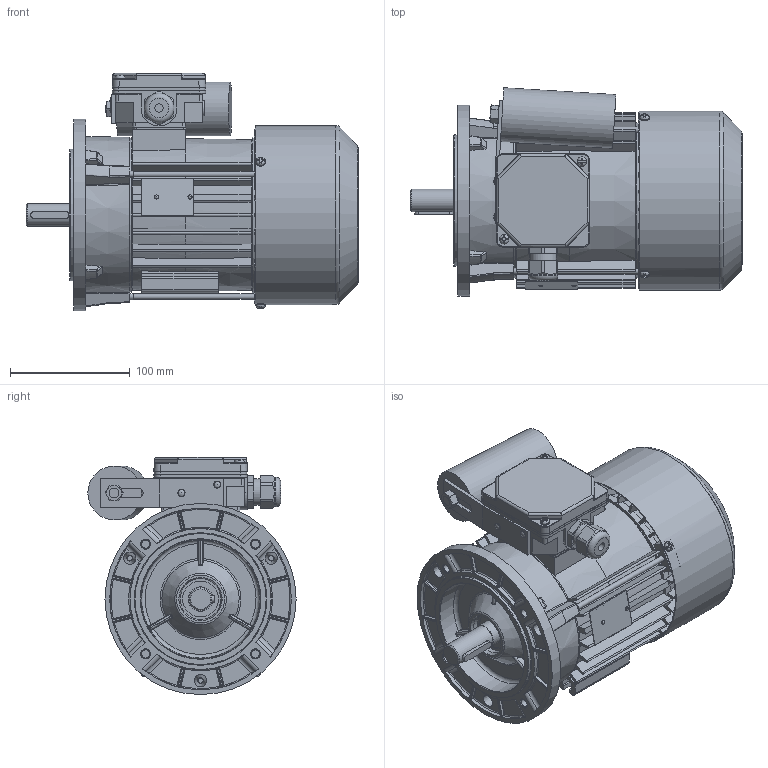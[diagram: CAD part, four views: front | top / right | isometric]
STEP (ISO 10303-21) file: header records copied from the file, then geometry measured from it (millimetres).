
FILE_DESCRIPTION(/* description */ ('Unknown'),/* implementation_level */ '2;1');
FILE_NAME(/* name */ '3SSIEK80-4A1',/* time_stamp */ '2024-06-18T07:05:22+02:00',/* author */ ('Unknown'),/* organization */ ('Unknown'),/* preprocessor_version */ 'ST-DEVELOPER v16.7',/* originating_system */ 'Solid Edge',/* authorisation */ 'Unknown');
FILE_SCHEMA (('AUTOMOTIVE_DESIGN {1 0 10303 214 3 1 1}'));
Products named in the file (1): Czêœæ5
Bounding box: 277.79 x 174.3 x 198.5 mm (x, y, z)
Volume: 1017692.9 mm3; surface area: 487558.5 mm2
Topology: 3 solids, 3 shells, 2746 faces, 7530 edges, 4832 vertices
Faces by surface type: plane 1176, cylinder 808, bspline 358, torus 202, cone 172, sphere 30
Full cylindrical faces by diameter (mm): 2 x2, 2.4 x2, 3 x1, 3.7 x8, 4 x6, 4.2 x3, 4.3 x2, 4.5 x3, 4.6 x3, 4.8 x2, 5 x5, 5.5 x3, 6 x2, 6.5 x1, 6.8 x4, 7 x1, 8 x10, 18.998 x1, 19.298 x1, 19.898 x1, 20.298 x2, 20.398 x2, 20.4 x2, 22.3 x1, 25 x1, 25.497 x1, 26.097 x1, 26.997 x1, 28.799 x4, 30 x1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
Entity records: 112344 total; most frequent: CARTESIAN_POINT 27903, ORIENTED_EDGE 14328, DIRECTION 12790, EDGE_CURVE 7164, AXIS2_PLACEMENT_3D 4819, VERTEX_POINT 4697, FACE_BOUND 3225, EDGE_LOOP 3221
